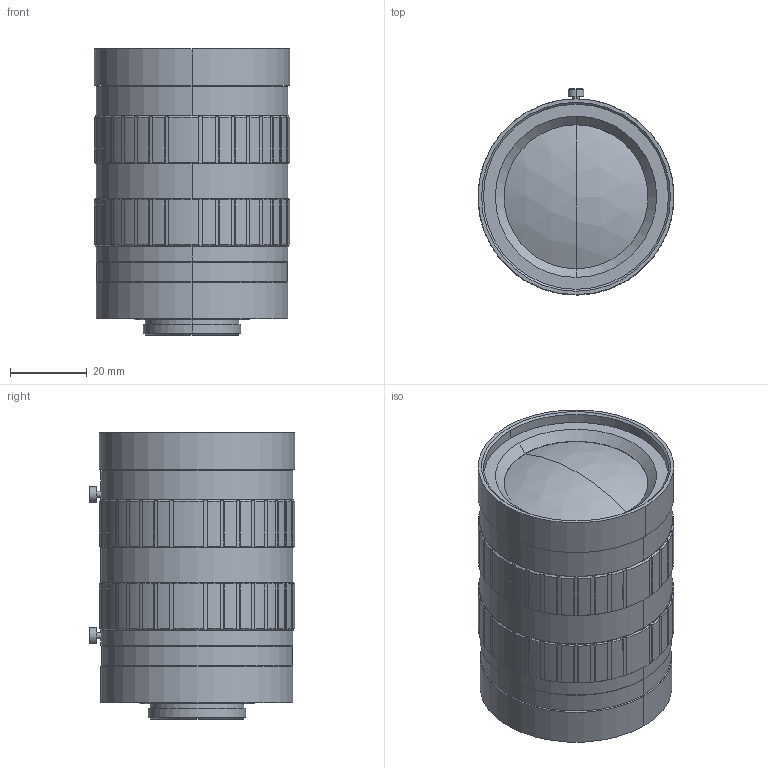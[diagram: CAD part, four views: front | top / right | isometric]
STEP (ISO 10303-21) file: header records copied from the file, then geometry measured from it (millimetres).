
FILE_DESCRIPTION (( 'STEP AP214' ), '1' );
FILE_NAME ('CF16HA-1_3D_Modeling.STEP', '2016-06-15T07:17:55', ( '富士フイルム株式会社' ), ( '富士フイルム株式会社' ), 'SwSTEP 2.0', 'SolidWorks 2014', '' );
FILE_SCHEMA (( 'AUTOMOTIVE_DESIGN' ));
Length unit declared in the file: millimetre
Products named in the file (1): CF16HA-1_3D_Modeling
Bounding box: 51 x 53.6 x 74.52 mm (x, y, z)
Volume: 134229.6 mm3; surface area: 18077.3 mm2
Topology: 1 solids, 1 shells, 346 faces, 950 edges, 622 vertices
Faces by surface type: cylinder 166, plane 146, cone 30, sphere 4
Entity records: 11500 total; most frequent: CARTESIAN_POINT 2839, ORIENTED_EDGE 1900, DIRECTION 1748, EDGE_CURVE 950, AXIS2_PLACEMENT_3D 711, VERTEX_POINT 622, CIRCLE 364, EDGE_LOOP 362
